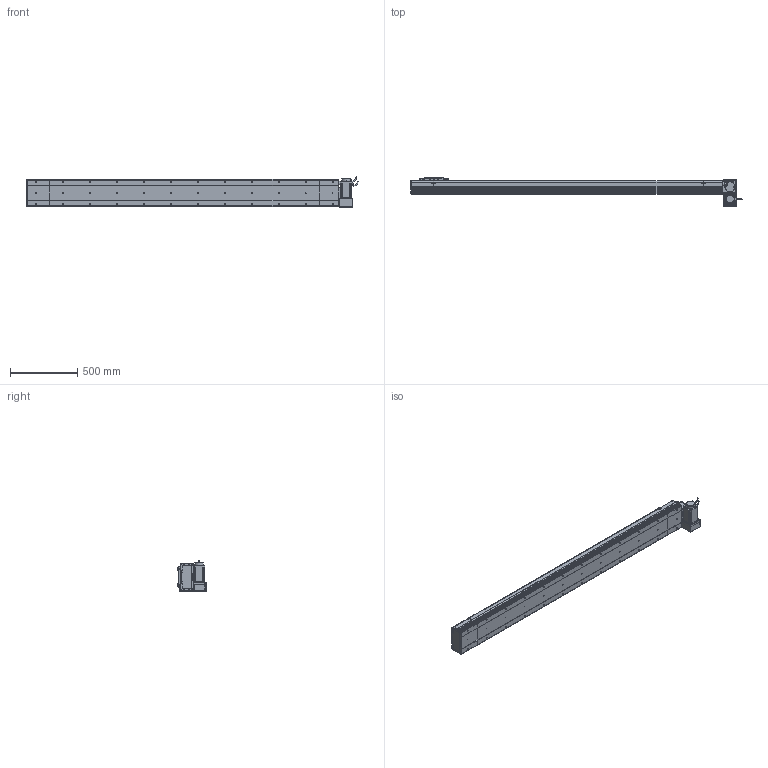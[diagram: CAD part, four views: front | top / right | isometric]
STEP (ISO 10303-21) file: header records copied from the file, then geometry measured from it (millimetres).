
FILE_DESCRIPTION (( 'STEP AP214' ), '1' );
FILE_NAME ('D20 CBH RU S2000.STEP', '2010-06-30T09:52:20', ( 'Conseil Régional Haute-Normandie' ), ( 'Conseil Régional Haute-Normandie' ), 'SwSTEP 2.0', 'SolidWorks 2010', '' );
FILE_SCHEMA (( 'AUTOMOTIVE_DESIGN' ));
Length unit declared in the file: millimetre
Products named in the file (31): codeur 90BLDC125-640; Tail D20_Default; Glissiere_Default; Chariot D20_Default; Corp S2000_Default; Corp D20 S2000_Default; vis M5 L47_Default; Support Chariot D20_Default; Couvercle S2000_Default; ecrou_Default; vis M5 L30_Default; Conecteur_Default; Conecteur2_Default; Plaque de Bout Tail D20_Default; Couvercle_Default; Corp Tail D20_Default; vis M5 L15_Default; Plaque De Serrage D20_Default; Plaque de Bout Head D20 RU_Default; Head RU_Default; D20 CBH RU S2000; Couvercle RU_Default; Corp Tail D20 RU_Default; Support moteur RU_Default; Rondelle Cache D20 RU_Default; Cache Support Moteur RU_Default; Plaque De Serrage D20 RU_Default; corps 90BLDC125A-640; avant 90BLDC125A-640; Moteur motionking 90BLDC125A-640
Assembly tree (66 placements, depth 4):
  D20 CBH RU S2000
    Tail D20_Default
      Plaque de Bout Tail D20_Default
      Corp Tail D20_Default
      Couvercle_Default
      Plaque De Serrage D20_Default
      vis M5 L15_Default  x6
    Head RU_Default
      vis M5 L30_Default  x4
      ecrou_Default  x4
      vis M5 L15_Default  x12
      Rondelle Cache D20 RU_Default  x3
      Plaque de Bout Head D20 RU_Default
      vis M5 L47_Default  x4
      Support moteur RU_Default
      Moteur motionking 90BLDC125A-640
        Conecteur_Default
        codeur 90BLDC125-640
        corps 90BLDC125A-640
        avant 90BLDC125A-640
        Conecteur2_Default
      Couvercle RU_Default
      Cache Support Moteur RU_Default
      Corp Tail D20 RU_Default
      Plaque De Serrage D20 RU_Default
    Chariot D20_Default
      vis M5 L15_Default  x8
      Support Chariot D20_Default
      Chariot D20_Default
      Glissiere_Default
    Corp D20 S2000_Default
      Couvercle S2000_Default
      Corp S2000_Default
Bounding box: 2464.45 x 209 x 229.7 mm (x, y, z)
Volume: 16923881.2 mm3; surface area: 3307507.2 mm2
Topology: 103 solids, 103 shells, 3769 faces, 9398 edges, 6106 vertices
Faces by surface type: plane 2096, bspline 806, cylinder 704, torus 91, cone 68, sphere 4
Entity records: 159406 total; most frequent: CARTESIAN_POINT 82311, ORIENTED_EDGE 15264, DIRECTION 11610, EDGE_CURVE 7632, VERTEX_POINT 5050, VECTOR 4936, LINE 4936, AXIS2_PLACEMENT_3D 3337
